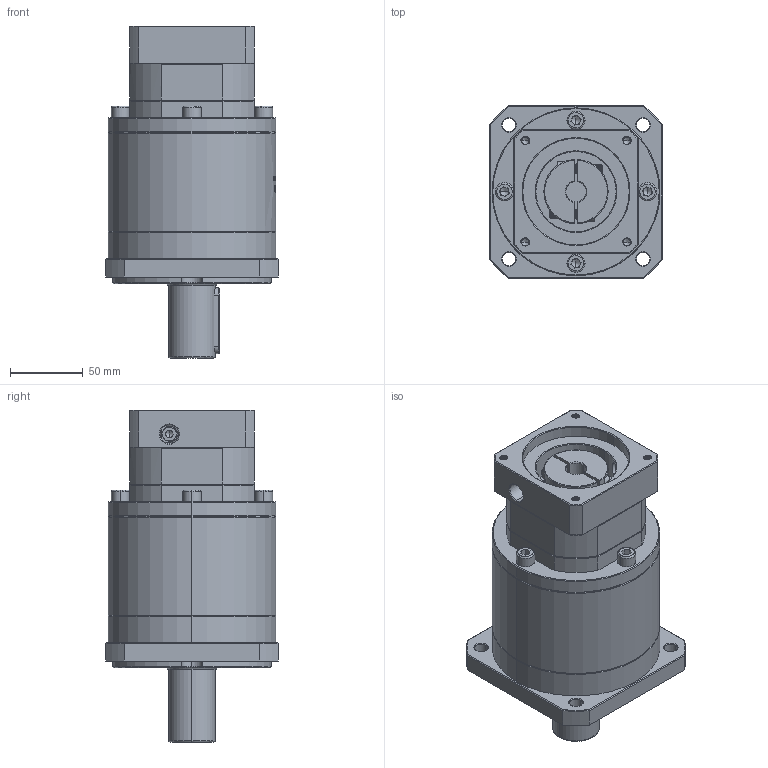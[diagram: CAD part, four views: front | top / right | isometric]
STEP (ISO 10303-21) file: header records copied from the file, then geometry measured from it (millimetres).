
FILE_DESCRIPTION (( 'STEP AP214' ), '1' );
FILE_NAME ('ZF120A-D32-L3-14-73-69.5X69.5-M6.step', '2023-03-07T15:02:33', ( '' ), ( 'Microsoft' ), 'SwSTEP 2.0', 'SolidWorks 2016', '' );
FILE_SCHEMA (( 'AUTOMOTIVE_DESIGN' ));
Length unit declared in the file: millimetre
Products named in the file (1): ZF120A-D32-L3-14-73-69.5X69.5-M6
Bounding box: 118 x 118 x 227.5 mm (x, y, z)
Volume: 1587091.3 mm3; surface area: 138175 mm2
Topology: 5 solids, 6 shells, 1937 faces, 5081 edges, 3236 vertices
Faces by surface type: plane 887, cylinder 402, bspline 321, cone 312, torus 15
Entity records: 105443 total; most frequent: CARTESIAN_POINT 40243, ORIENTED_EDGE 10102, DIRECTION 7793, EDGE_CURVE 5051, VERTEX_POINT 3236, VECTOR 2749, LINE 2749, AXIS2_PLACEMENT_3D 2522
